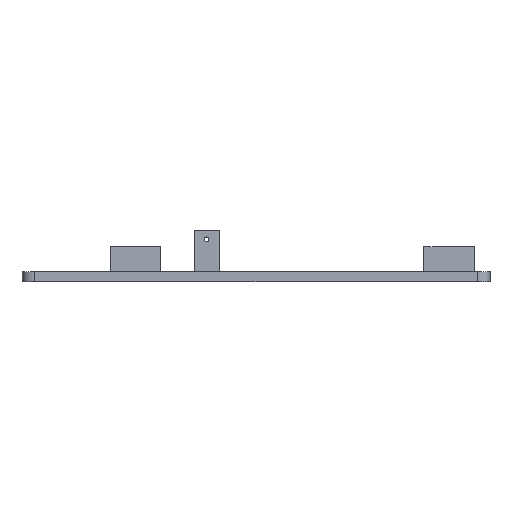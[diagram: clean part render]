
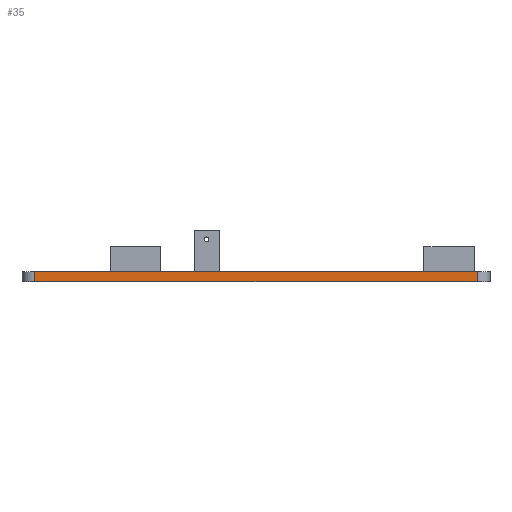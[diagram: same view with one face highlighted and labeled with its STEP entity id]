
A CAD part, left-side view. The second image highlights one B-rep face of the part: STEP entity #35.
In plain terms, the highlighted planar face has unit normal (-1, 0, 0).
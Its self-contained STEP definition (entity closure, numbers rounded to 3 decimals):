
#35 = ADVANCED_FACE('',(#36),#50,.F.);
#36 = FACE_BOUND('',#37,.F.);
#37 = EDGE_LOOP('',(#38,#73,#101,#129));
#38 = ORIENTED_EDGE('',*,*,#39,.F.);
#39 = EDGE_CURVE('',#40,#42,#44,.T.);
#40 = VERTEX_POINT('',#41);
#41 = CARTESIAN_POINT('',(-82.6,57.6,8.2));
#42 = VERTEX_POINT('',#43);
#43 = CARTESIAN_POINT('',(-82.6,55.2,8.2));
#44 = SURFACE_CURVE('',#45,(#49,#61),.PCURVE_S1.);
#45 = LINE('',#46,#47);
#46 = CARTESIAN_POINT('',(-82.6,57.6,8.2));
#47 = VECTOR('',#48,1.);
#48 = DIRECTION('',(0.,-1.,0.));
#49 = PCURVE('',#50,#55);
#50 = PLANE('',#51);
#51 = AXIS2_PLACEMENT_3D('',#52,#53,#54);
#52 = CARTESIAN_POINT('',(-82.6,56.4,8.2));
#53 = DIRECTION('',(1.,0.,0.));
#54 = DIRECTION('',(0.,0.,1.));
#55 = DEFINITIONAL_REPRESENTATION('',(#56),#60);
#56 = LINE('',#57,#58);
#57 = CARTESIAN_POINT('',(0.,-1.2));
#58 = VECTOR('',#59,1.);
#59 = DIRECTION('',(0.,1.));
#60 = ( GEOMETRIC_REPRESENTATION_CONTEXT(2) 
PARAMETRIC_REPRESENTATION_CONTEXT() REPRESENTATION_CONTEXT('2D SPACE',''
  ) );
#61 = PCURVE('',#62,#67);
#62 = CYLINDRICAL_SURFACE('',#63,3.);
#63 = AXIS2_PLACEMENT_3D('',#64,#65,#66);
#64 = CARTESIAN_POINT('',(-79.6,56.4,8.2));
#65 = DIRECTION('',(0.,-1.,0.));
#66 = DIRECTION('',(-1.,0.,0.));
#67 = DEFINITIONAL_REPRESENTATION('',(#68),#72);
#68 = LINE('',#69,#70);
#69 = CARTESIAN_POINT('',(0.,-1.2));
#70 = VECTOR('',#71,1.);
#71 = DIRECTION('',(0.,1.));
#72 = ( GEOMETRIC_REPRESENTATION_CONTEXT(2) 
PARAMETRIC_REPRESENTATION_CONTEXT() REPRESENTATION_CONTEXT('2D SPACE',''
  ) );
#73 = ORIENTED_EDGE('',*,*,#74,.T.);
#74 = EDGE_CURVE('',#40,#75,#77,.T.);
#75 = VERTEX_POINT('',#76);
#76 = CARTESIAN_POINT('',(-82.6,57.6,114.2));
#77 = SURFACE_CURVE('',#78,(#82,#89),.PCURVE_S1.);
#78 = LINE('',#79,#80);
#79 = CARTESIAN_POINT('',(-82.6,57.6,61.2));
#80 = VECTOR('',#81,1.);
#81 = DIRECTION('',(0.,0.,1.));
#82 = PCURVE('',#50,#83);
#83 = DEFINITIONAL_REPRESENTATION('',(#84),#88);
#84 = LINE('',#85,#86);
#85 = CARTESIAN_POINT('',(53.,-1.2));
#86 = VECTOR('',#87,1.);
#87 = DIRECTION('',(1.,0.));
#88 = ( GEOMETRIC_REPRESENTATION_CONTEXT(2) 
PARAMETRIC_REPRESENTATION_CONTEXT() REPRESENTATION_CONTEXT('2D SPACE',''
  ) );
#89 = PCURVE('',#90,#95);
#90 = PLANE('',#91);
#91 = AXIS2_PLACEMENT_3D('',#92,#93,#94);
#92 = CARTESIAN_POINT('',(0.,57.6,61.2));
#93 = DIRECTION('',(0.,-1.,0.));
#94 = DIRECTION('',(1.,0.,0.));
#95 = DEFINITIONAL_REPRESENTATION('',(#96),#100);
#96 = LINE('',#97,#98);
#97 = CARTESIAN_POINT('',(-82.6,0.));
#98 = VECTOR('',#99,1.);
#99 = DIRECTION('',(0.,1.));
#100 = ( GEOMETRIC_REPRESENTATION_CONTEXT(2) 
PARAMETRIC_REPRESENTATION_CONTEXT() REPRESENTATION_CONTEXT('2D SPACE',''
  ) );
#101 = ORIENTED_EDGE('',*,*,#102,.F.);
#102 = EDGE_CURVE('',#103,#75,#105,.T.);
#103 = VERTEX_POINT('',#104);
#104 = CARTESIAN_POINT('',(-82.6,55.2,114.2));
#105 = SURFACE_CURVE('',#106,(#110,#117),.PCURVE_S1.);
#106 = LINE('',#107,#108);
#107 = CARTESIAN_POINT('',(-82.6,55.2,114.2));
#108 = VECTOR('',#109,1.);
#109 = DIRECTION('',(0.,1.,0.));
#110 = PCURVE('',#50,#111);
#111 = DEFINITIONAL_REPRESENTATION('',(#112),#116);
#112 = LINE('',#113,#114);
#113 = CARTESIAN_POINT('',(106.,1.2));
#114 = VECTOR('',#115,1.);
#115 = DIRECTION('',(0.,-1.));
#116 = ( GEOMETRIC_REPRESENTATION_CONTEXT(2) 
PARAMETRIC_REPRESENTATION_CONTEXT() REPRESENTATION_CONTEXT('2D SPACE',''
  ) );
#117 = PCURVE('',#118,#123);
#118 = CYLINDRICAL_SURFACE('',#119,3.);
#119 = AXIS2_PLACEMENT_3D('',#120,#121,#122);
#120 = CARTESIAN_POINT('',(-79.6,56.4,114.2));
#121 = DIRECTION('',(0.,-1.,0.));
#122 = DIRECTION('',(-1.,0.,0.));
#123 = DEFINITIONAL_REPRESENTATION('',(#124),#128);
#124 = LINE('',#125,#126);
#125 = CARTESIAN_POINT('',(6.283,1.2));
#126 = VECTOR('',#127,1.);
#127 = DIRECTION('',(0.,-1.));
#128 = ( GEOMETRIC_REPRESENTATION_CONTEXT(2) 
PARAMETRIC_REPRESENTATION_CONTEXT() REPRESENTATION_CONTEXT('2D SPACE',''
  ) );
#129 = ORIENTED_EDGE('',*,*,#130,.F.);
#130 = EDGE_CURVE('',#42,#103,#131,.T.);
#131 = SURFACE_CURVE('',#132,(#136,#143),.PCURVE_S1.);
#132 = LINE('',#133,#134);
#133 = CARTESIAN_POINT('',(-82.6,55.2,61.2));
#134 = VECTOR('',#135,1.);
#135 = DIRECTION('',(0.,0.,1.));
#136 = PCURVE('',#50,#137);
#137 = DEFINITIONAL_REPRESENTATION('',(#138),#142);
#138 = LINE('',#139,#140);
#139 = CARTESIAN_POINT('',(53.,1.2));
#140 = VECTOR('',#141,1.);
#141 = DIRECTION('',(1.,0.));
#142 = ( GEOMETRIC_REPRESENTATION_CONTEXT(2) 
PARAMETRIC_REPRESENTATION_CONTEXT() REPRESENTATION_CONTEXT('2D SPACE',''
  ) );
#143 = PCURVE('',#144,#149);
#144 = PLANE('',#145);
#145 = AXIS2_PLACEMENT_3D('',#146,#147,#148);
#146 = CARTESIAN_POINT('',(0.,55.2,61.2));
#147 = DIRECTION('',(0.,-1.,0.));
#148 = DIRECTION('',(1.,0.,0.));
#149 = DEFINITIONAL_REPRESENTATION('',(#150),#154);
#150 = LINE('',#151,#152);
#151 = CARTESIAN_POINT('',(-82.6,0.));
#152 = VECTOR('',#153,1.);
#153 = DIRECTION('',(0.,1.));
#154 = ( GEOMETRIC_REPRESENTATION_CONTEXT(2) 
PARAMETRIC_REPRESENTATION_CONTEXT() REPRESENTATION_CONTEXT('2D SPACE',''
  ) );
